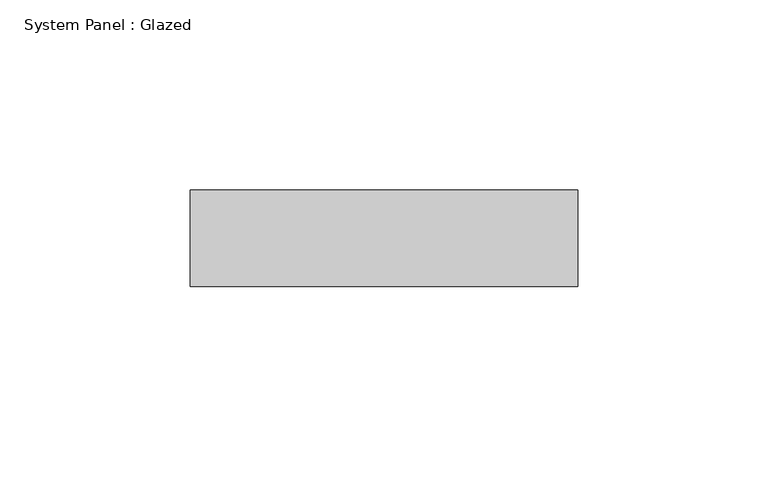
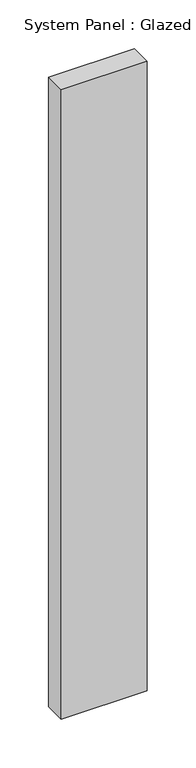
"""IFC4 building model written with IfcOpenShell, lengths in millimetres: plate geometry, System Panel : Glazed."""

from ifc_helpers import new_model, si_unit, origin, origin_with_axes, place, context, project, spatial, polyline, outline, extrude, source, transform, mapped, element, save


def system_panel_glazed_37454f57(model_context):
    return source(origin(), model_context, "Body", "SweptSolid", [
        extrude(outline(polyline([(50.9639823, 19.05), (-50.9639823, 19.05), (-50.9639823, 44.45), (50.9639823, 44.45), (50.9639823, 19.05)])), origin_with_axes(), (0.0, 0.0, 1.0), 787.4),
    ])


if __name__ == "__main__":
    model = new_model("IFC4")
    model_context = context("Model", 3, world=origin())
    ifc_project = project(units=[si_unit("LENGTHUNIT", "METRE", prefix="MILLI")], contexts=[model_context])
    site = spatial("IfcSite", under=ifc_project)
    building = spatial("IfcBuilding", under=site)
    placement = place(None, origin())
    system_panel_glazed_shape = system_panel_glazed_37454f57(model_context)
    element("IfcPlate", 1, ObjectType="System Panel : Glazed", at=placement, inside=building, context=model_context, shape_type="MappedRepresentation", body=[
        mapped(system_panel_glazed_shape, transform((0.0, 0.0, 0.0), x_axis=(1.0, 0.0, 0.0), y_axis=(0.0, 1.0, 0.0), z_axis=(0.0, 0.0, 1.0))),
    ])
    save(model, "model.ifc")
